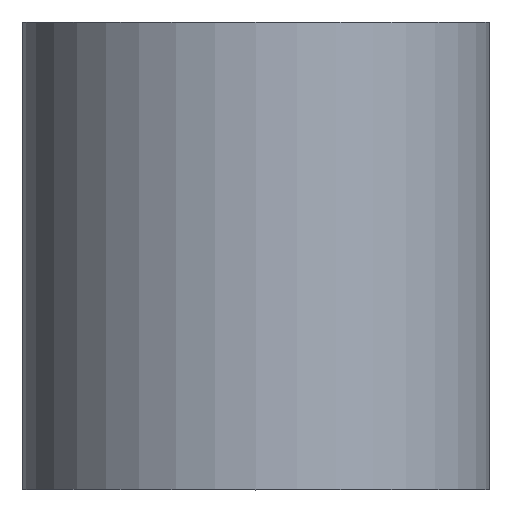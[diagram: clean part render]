
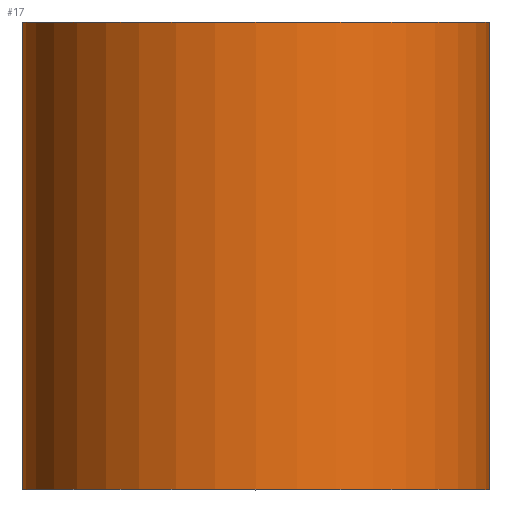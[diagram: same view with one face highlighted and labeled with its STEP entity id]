
A CAD part, top view. The second image highlights one B-rep face of the part: STEP entity #17.
In plain terms, the highlighted cylindrical face has radius 13 mm (diameter 26 mm), a full revolution.
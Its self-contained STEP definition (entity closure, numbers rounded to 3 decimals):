
#17 = ADVANCED_FACE('',(#18),#32,.T.);
#18 = FACE_BOUND('',#19,.T.);
#19 = EDGE_LOOP('',(#20,#50,#77,#78));
#20 = ORIENTED_EDGE('',*,*,#21,.T.);
#21 = EDGE_CURVE('',#22,#24,#26,.T.);
#22 = VERTEX_POINT('',#23);
#23 = CARTESIAN_POINT('',(13.,4.,75.));
#24 = VERTEX_POINT('',#25);
#25 = CARTESIAN_POINT('',(13.,30.,75.));
#26 = SEAM_CURVE('',#27,(#31,#43),.PCURVE_S1.);
#27 = LINE('',#28,#29);
#28 = CARTESIAN_POINT('',(13.,4.,75.));
#29 = VECTOR('',#30,1.);
#30 = DIRECTION('',(-0.,1.,-0.));
#31 = PCURVE('',#32,#37);
#32 = CYLINDRICAL_SURFACE('',#33,13.);
#33 = AXIS2_PLACEMENT_3D('',#34,#35,#36);
#34 = CARTESIAN_POINT('',(0.,4.,75.));
#35 = DIRECTION('',(0.,-1.,0.));
#36 = DIRECTION('',(1.,0.,0.));
#37 = DEFINITIONAL_REPRESENTATION('',(#38),#42);
#38 = LINE('',#39,#40);
#39 = CARTESIAN_POINT('',(0.,0.));
#40 = VECTOR('',#41,1.);
#41 = DIRECTION('',(0.,-1.));
#42 = ( GEOMETRIC_REPRESENTATION_CONTEXT(2) 
PARAMETRIC_REPRESENTATION_CONTEXT() REPRESENTATION_CONTEXT('2D SPACE',''
  ) );
#43 = PCURVE('',#32,#44);
#44 = DEFINITIONAL_REPRESENTATION('',(#45),#49);
#45 = LINE('',#46,#47);
#46 = CARTESIAN_POINT('',(6.283,0.));
#47 = VECTOR('',#48,1.);
#48 = DIRECTION('',(0.,-1.));
#49 = ( GEOMETRIC_REPRESENTATION_CONTEXT(2) 
PARAMETRIC_REPRESENTATION_CONTEXT() REPRESENTATION_CONTEXT('2D SPACE',''
  ) );
#50 = ORIENTED_EDGE('',*,*,#51,.T.);
#51 = EDGE_CURVE('',#24,#24,#52,.T.);
#52 = SURFACE_CURVE('',#53,(#58,#65),.PCURVE_S1.);
#53 = CIRCLE('',#54,13.);
#54 = AXIS2_PLACEMENT_3D('',#55,#56,#57);
#55 = CARTESIAN_POINT('',(0.,30.,75.));
#56 = DIRECTION('',(0.,-1.,0.));
#57 = DIRECTION('',(1.,0.,0.));
#58 = PCURVE('',#32,#59);
#59 = DEFINITIONAL_REPRESENTATION('',(#60),#64);
#60 = LINE('',#61,#62);
#61 = CARTESIAN_POINT('',(0.,-26.));
#62 = VECTOR('',#63,1.);
#63 = DIRECTION('',(1.,0.));
#64 = ( GEOMETRIC_REPRESENTATION_CONTEXT(2) 
PARAMETRIC_REPRESENTATION_CONTEXT() REPRESENTATION_CONTEXT('2D SPACE',''
  ) );
#65 = PCURVE('',#66,#71);
#66 = PLANE('',#67);
#67 = AXIS2_PLACEMENT_3D('',#68,#69,#70);
#68 = CARTESIAN_POINT('',(0.,30.,75.));
#69 = DIRECTION('',(-0.,-1.,-0.));
#70 = DIRECTION('',(0.,0.,-1.));
#71 = DEFINITIONAL_REPRESENTATION('',(#72),#76);
#72 = CIRCLE('',#73,13.);
#73 = AXIS2_PLACEMENT_2D('',#74,#75);
#74 = CARTESIAN_POINT('',(0.,0.));
#75 = DIRECTION('',(0.,1.));
#76 = ( GEOMETRIC_REPRESENTATION_CONTEXT(2) 
PARAMETRIC_REPRESENTATION_CONTEXT() REPRESENTATION_CONTEXT('2D SPACE',''
  ) );
#77 = ORIENTED_EDGE('',*,*,#21,.F.);
#78 = ORIENTED_EDGE('',*,*,#79,.F.);
#79 = EDGE_CURVE('',#22,#22,#80,.T.);
#80 = SURFACE_CURVE('',#81,(#86,#93),.PCURVE_S1.);
#81 = CIRCLE('',#82,13.);
#82 = AXIS2_PLACEMENT_3D('',#83,#84,#85);
#83 = CARTESIAN_POINT('',(0.,4.,75.));
#84 = DIRECTION('',(0.,-1.,0.));
#85 = DIRECTION('',(1.,0.,0.));
#86 = PCURVE('',#32,#87);
#87 = DEFINITIONAL_REPRESENTATION('',(#88),#92);
#88 = LINE('',#89,#90);
#89 = CARTESIAN_POINT('',(0.,0.));
#90 = VECTOR('',#91,1.);
#91 = DIRECTION('',(1.,0.));
#92 = ( GEOMETRIC_REPRESENTATION_CONTEXT(2) 
PARAMETRIC_REPRESENTATION_CONTEXT() REPRESENTATION_CONTEXT('2D SPACE',''
  ) );
#93 = PCURVE('',#94,#99);
#94 = PLANE('',#95);
#95 = AXIS2_PLACEMENT_3D('',#96,#97,#98);
#96 = CARTESIAN_POINT('',(0.,4.,75.));
#97 = DIRECTION('',(-0.,-1.,-0.));
#98 = DIRECTION('',(0.,0.,-1.));
#99 = DEFINITIONAL_REPRESENTATION('',(#100),#104);
#100 = CIRCLE('',#101,13.);
#101 = AXIS2_PLACEMENT_2D('',#102,#103);
#102 = CARTESIAN_POINT('',(0.,0.));
#103 = DIRECTION('',(0.,1.));
#104 = ( GEOMETRIC_REPRESENTATION_CONTEXT(2) 
PARAMETRIC_REPRESENTATION_CONTEXT() REPRESENTATION_CONTEXT('2D SPACE',''
  ) );
